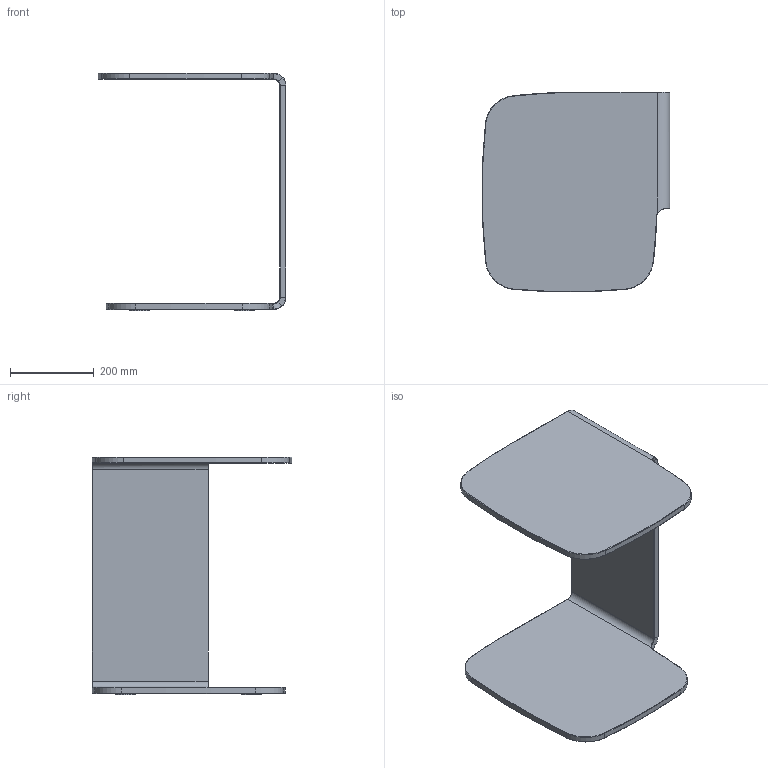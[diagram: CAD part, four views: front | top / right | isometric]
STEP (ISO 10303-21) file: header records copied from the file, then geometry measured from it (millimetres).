
FILE_DESCRIPTION((''),'2;1');
FILE_NAME('C:\AutodeskVault\AreaLavoro\Progetti\SoVeT Italia\2. Tavolini_Coffee tables\Shell\Web file\Shell Web\P4672.stp','2012-06-13T18:05:20',('Gianluca'),('So.Ve.T. s.r.l.'),'Autodesk Inventor 2013','Autodesk Inventor 2013','IL PROGETTO E'' DI ESCLUSIVA PROPRIETA'' DELLA SO.VE.T. srl. E'' VIETATA OGNI RIPRODUZIONE TOTALE O PARZIALE E QUALSIASI UTILIZZO NON AUTORIZZATO.');
FILE_SCHEMA(('AUTOMOTIVE_DESIGN { 1 0 10303 214 1 1 1 1 }'));
Length unit declared in the file: millimetre
Products named in the file (1): P4672 Contorno semplificato
Bounding box: 449.16 x 477.28 x 568.08 mm (x, y, z)
Volume: 7945083.7 mm3; surface area: 1111537.3 mm2
Topology: 1 solids, 1 shells, 111 faces, 238 edges, 133 vertices
Faces by surface type: cone 40, cylinder 32, plane 28, bspline 11
Full cylindrical faces by diameter (mm): 48 x4
Entity records: 5342 total; most frequent: CARTESIAN_POINT 2833, DIRECTION 511, ORIENTED_EDGE 468, EDGE_CURVE 234, AXIS2_PLACEMENT_3D 197, VERTEX_POINT 133, EDGE_LOOP 119, VECTOR 117
